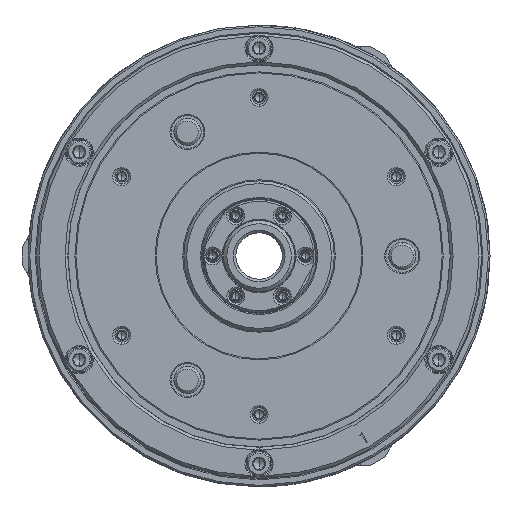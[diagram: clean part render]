
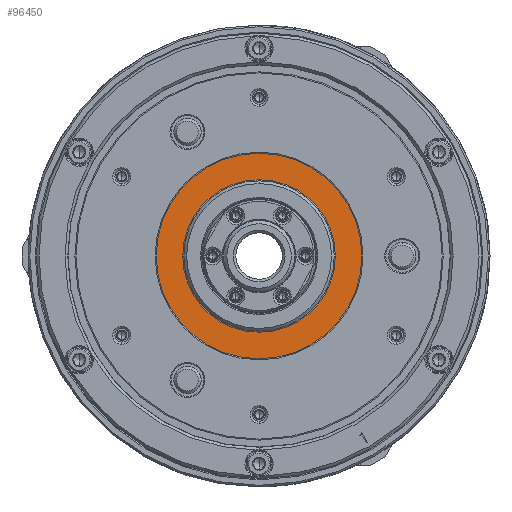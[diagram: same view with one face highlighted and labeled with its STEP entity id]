
A CAD part, left-side view. The second image highlights one B-rep face of the part: STEP entity #96450.
In plain terms, the highlighted planar face has unit normal (-1, 0, 0) as drawn and (0, 0, -1) by its records, which use the part's own axes.
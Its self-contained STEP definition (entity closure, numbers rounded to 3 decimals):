
#1847 = AXIS2_PLACEMENT_3D ( 'NONE', #90443, #102189, #61254 ) ;
#8497 = CARTESIAN_POINT ( 'NONE',  ( 37.616, 0., -99.8 ) ) ;
#17621 = ORIENTED_EDGE ( 'NONE', *, *, #151847, .F. ) ;
#18325 = EDGE_LOOP ( 'NONE', ( #96481, #26142 ) ) ;
#18468 = DIRECTION ( 'NONE',  ( 0., 0., 1. ) ) ;
#20163 = ORIENTED_EDGE ( 'NONE', *, *, #156373, .F. ) ;
#22554 = DIRECTION ( 'NONE',  ( 1., 0., 0. ) ) ;
#26142 = ORIENTED_EDGE ( 'NONE', *, *, #114558, .T. ) ;
#29019 = CIRCLE ( 'NONE', #128495, 37.616 ) ;
#40420 = VERTEX_POINT ( 'NONE', #187138 ) ;
#42832 = CARTESIAN_POINT ( 'NONE',  ( 0., 0., -99.8 ) ) ;
#46636 = FACE_OUTER_BOUND ( 'NONE', #82599, .T. ) ;
#61254 = DIRECTION ( 'NONE',  ( -1., 0., 0. ) ) ;
#74894 = FACE_BOUND ( 'NONE', #18325, .T. ) ;
#82599 = EDGE_LOOP ( 'NONE', ( #17621, #20163 ) ) ;
#83817 = DIRECTION ( 'NONE',  ( 0., 0., 1. ) ) ;
#85901 = CARTESIAN_POINT ( 'NONE',  ( -27.9, 0., -99.8 ) ) ;
#90443 = CARTESIAN_POINT ( 'NONE',  ( 0., 37.616, -99.8 ) ) ;
#90693 = VERTEX_POINT ( 'NONE', #85901 ) ;
#92431 = CARTESIAN_POINT ( 'NONE',  ( 0., 0., -99.8 ) ) ;
#96450 = ADVANCED_FACE ( 'NONE', ( #74894, #46636 ), #178140, .T. ) ;
#96481 = ORIENTED_EDGE ( 'NONE', *, *, #139347, .T. ) ;
#97487 = CARTESIAN_POINT ( 'NONE',  ( 0., 0., -99.8 ) ) ;
#98374 = CARTESIAN_POINT ( 'NONE',  ( 0., 0., -99.8 ) ) ;
#99341 = DIRECTION ( 'NONE',  ( 1., 0., 0. ) ) ;
#100293 = DIRECTION ( 'NONE',  ( 0., 0., 1. ) ) ;
#102189 = DIRECTION ( 'NONE',  ( 0., 0., -1. ) ) ;
#111108 = VERTEX_POINT ( 'NONE', #126442 ) ;
#114558 = EDGE_CURVE ( 'NONE', #90693, #111108, #124171, .T. ) ;
#116891 = CIRCLE ( 'NONE', #119949, 37.616 ) ;
#119432 = VERTEX_POINT ( 'NONE', #8497 ) ;
#119949 = AXIS2_PLACEMENT_3D ( 'NONE', #42832, #148969, #191818 ) ;
#124171 = CIRCLE ( 'NONE', #136552, 27.9 ) ;
#126442 = CARTESIAN_POINT ( 'NONE',  ( 27.9, 0., -99.8 ) ) ;
#128495 = AXIS2_PLACEMENT_3D ( 'NONE', #92431, #18468, #136293 ) ;
#136293 = DIRECTION ( 'NONE',  ( 1., 0., 0. ) ) ;
#136552 = AXIS2_PLACEMENT_3D ( 'NONE', #98374, #100293, #99341 ) ;
#139347 = EDGE_CURVE ( 'NONE', #111108, #90693, #163632, .T. ) ;
#148969 = DIRECTION ( 'NONE',  ( 0., 0., 1. ) ) ;
#151268 = AXIS2_PLACEMENT_3D ( 'NONE', #97487, #83817, #22554 ) ;
#151847 = EDGE_CURVE ( 'NONE', #40420, #119432, #29019, .T. ) ;
#156373 = EDGE_CURVE ( 'NONE', #119432, #40420, #116891, .T. ) ;
#163632 = CIRCLE ( 'NONE', #151268, 27.9 ) ;
#178140 = PLANE ( 'NONE',  #1847 ) ;
#187138 = CARTESIAN_POINT ( 'NONE',  ( -37.616, 0., -99.8 ) ) ;
#191818 = DIRECTION ( 'NONE',  ( 1., 0., 0. ) ) ;
